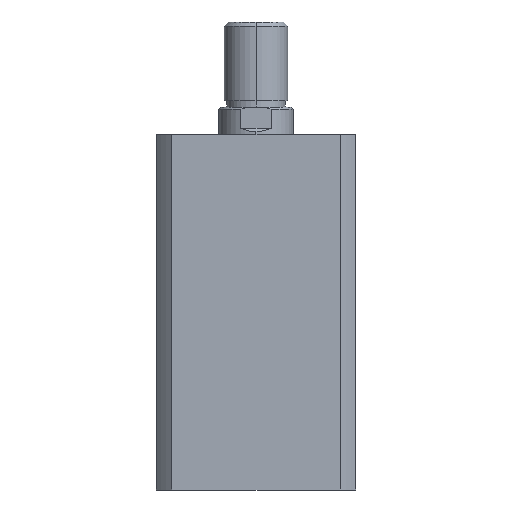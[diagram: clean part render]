
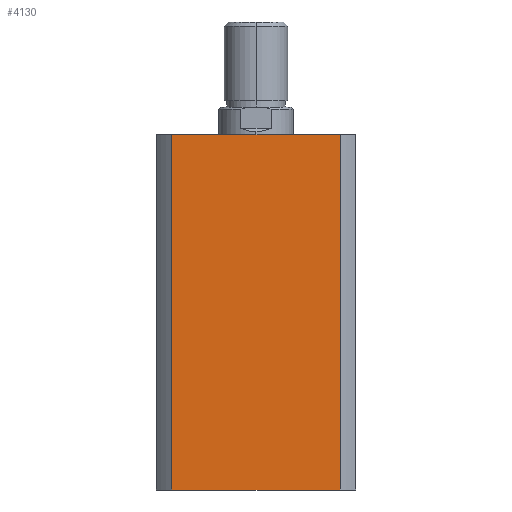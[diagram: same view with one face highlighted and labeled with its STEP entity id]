
A CAD part, left-side view. The second image highlights one B-rep face of the part: STEP entity #4130.
In plain terms, the highlighted planar face has unit normal (-1, 0, 0).
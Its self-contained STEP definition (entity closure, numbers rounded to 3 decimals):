
#167 = EDGE_CURVE ( 'NONE', #1857, #4272, #2925, .T. ) ;
#183 = DIRECTION ( 'NONE',  ( 0., 0., -1. ) ) ;
#215 = EDGE_CURVE ( 'NONE', #4248, #1811, #2975, .T. ) ;
#236 = EDGE_CURVE ( 'NONE', #4248, #1857, #2988, .T. ) ;
#268 = EDGE_CURVE ( 'NONE', #1811, #4272, #3007, .T. ) ;
#369 = CARTESIAN_POINT ( 'NONE',  ( -47., 39.664, 167. ) ) ;
#370 = DIRECTION ( 'NONE',  ( 0., 0., -1. ) ) ;
#945 = CARTESIAN_POINT ( 'NONE',  ( -47., -39.664, 167. ) ) ;
#1069 = ORIENTED_EDGE ( 'NONE', *, *, #236, .F. ) ;
#1106 = ORIENTED_EDGE ( 'NONE', *, *, #167, .F. ) ;
#1186 = ORIENTED_EDGE ( 'NONE', *, *, #268, .T. ) ;
#1230 = ORIENTED_EDGE ( 'NONE', *, *, #215, .T. ) ;
#1254 = DIRECTION ( 'NONE',  ( 0., -1., 0. ) ) ;
#1266 = CARTESIAN_POINT ( 'NONE',  ( -47., 0., 167. ) ) ;
#1318 = DIRECTION ( 'NONE',  ( 0., -1., 0. ) ) ;
#1338 = CARTESIAN_POINT ( 'NONE',  ( -47., 0., 0. ) ) ;
#1766 = CARTESIAN_POINT ( 'NONE',  ( -47., 39.664, 0. ) ) ;
#1792 = CARTESIAN_POINT ( 'NONE',  ( -47., -39.664, 167. ) ) ;
#1811 = VERTEX_POINT ( 'NONE', #1766 ) ;
#1857 = VERTEX_POINT ( 'NONE', #1792 ) ;
#2558 = CARTESIAN_POINT ( 'NONE',  ( -47., 39.664, 167. ) ) ;
#2573 = CARTESIAN_POINT ( 'NONE',  ( -47., -39.664, 0. ) ) ;
#2925 = LINE ( 'NONE', #945, #2926 ) ;
#2926 = VECTOR ( 'NONE', #183, 1000. ) ;
#2975 = LINE ( 'NONE', #369, #2978 ) ;
#2978 = VECTOR ( 'NONE', #370, 1000. ) ;
#2988 = LINE ( 'NONE', #1266, #2989 ) ;
#2989 = VECTOR ( 'NONE', #1254, 1000. ) ;
#3007 = LINE ( 'NONE', #1338, #3510 ) ;
#3158 = AXIS2_PLACEMENT_3D ( 'NONE', #3463, #3472, #3473 ) ;
#3463 = CARTESIAN_POINT ( 'NONE',  ( -47., 0., 167. ) ) ;
#3470 = PLANE ( 'NONE',  #3158 ) ;
#3472 = DIRECTION ( 'NONE',  ( 1., 0., 0. ) ) ;
#3473 = DIRECTION ( 'NONE',  ( 0., 0., -1. ) ) ;
#3510 = VECTOR ( 'NONE', #1318, 1000. ) ;
#3768 = FACE_OUTER_BOUND ( 'NONE', #4291, .T. ) ;
#4130 = ADVANCED_FACE ( 'NONE', ( #3768 ), #3470, .F. ) ;
#4248 = VERTEX_POINT ( 'NONE', #2558 ) ;
#4272 = VERTEX_POINT ( 'NONE', #2573 ) ;
#4291 = EDGE_LOOP ( 'NONE', ( #1186, #1106, #1069, #1230 ) ) ;
